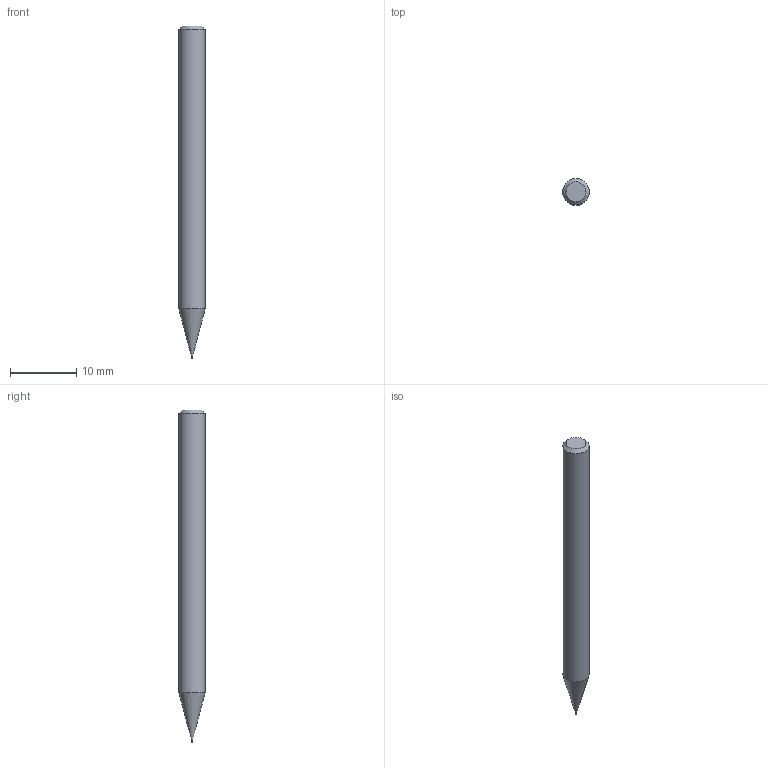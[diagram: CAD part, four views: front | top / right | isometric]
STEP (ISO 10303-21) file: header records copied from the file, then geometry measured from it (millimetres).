
FILE_DESCRIPTION((''),'2;1');
FILE_NAME('C:\Users\nsx150\AppData\Local\Temp\Mastercam 2021\LJSIDMOTM8\TEMP.step','2021-08-03T13:47:39',(''),(''),'STEP Write','Mastercam 2021 ... CNC Software, Inc.','');
FILE_SCHEMA(('AUTOMOTIVE_DESIGN'));
Length unit declared in the file: millimetre
Products named in the file (1): None
Bounding box: 4 x 4 x 50 mm (x, y, z)
Volume: 565 mm3; surface area: 592.5 mm2
Topology: 2 solids, 2 shells, 10 faces, 14 edges, 8 vertices
Faces by surface type: plane 4, cylinder 3, cone 2, torus 1
Full cylindrical faces by diameter (mm): 0.19 x1, 0.2 x1, 4 x1
Entity records: 232 total; most frequent: DIRECTION 40, CARTESIAN_POINT 28, AXIS2_PLACEMENT_3D 20, ORIENTED_EDGE 16, EDGE_LOOP 16, STYLED_ITEM 13, ADVANCED_FACE 10, FACE_BOUND 10
